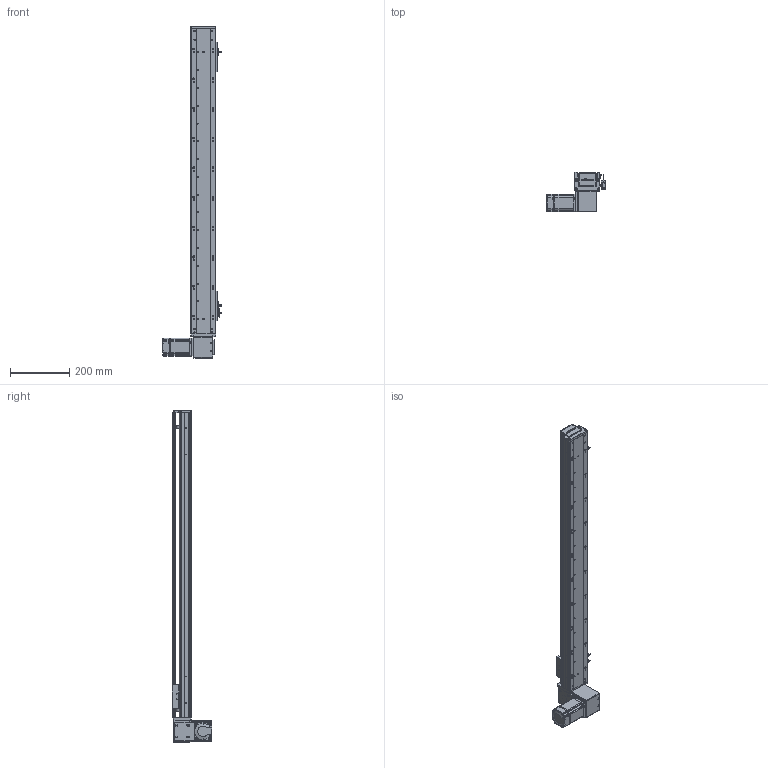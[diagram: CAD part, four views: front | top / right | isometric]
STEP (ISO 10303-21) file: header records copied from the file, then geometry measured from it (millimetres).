
FILE_DESCRIPTION (( 'STEP AP203' ), '1' );
FILE_NAME ('RY80-T-300-DL.SLDASM_850.step', '2021-03-01T01:38:20', ( '盈信电脑' ), ( '东莞市道滘镇水果街19号' ), 'SwSTEP 2.0', 'SolidWorks 2012', '' );
FILE_SCHEMA (( 'CONFIG_CONTROL_DESIGN' ));
Length unit declared in the file: millimetre
Products named in the file (19): RY100-T粣創揤踡裔; RY80-T-M4蹟翐3; RY80-T-300-DL.SLDASM_850; RY80-T-上下折同步轮盖板; 1; 滅袉蝶18-10; RY80-T肮祭謫狟殏俋欶; RY80-T肮祭湍揤輸2; RY80-T肮祭湍揤輸1; RY80-T翋肮祭謫裔啣; RY80-T萇儂假蚾啣; RY80-T-翋肮祭謫釱; 672嫖萇羲壽假蚾釱; RY80俋离覜茼え; 覜茼ん672; RY80-T肮祭謫臏賑輸; RY80-T-300-DL倰第菁釱_850; RY80-T-300-DL倰第奻裔啣_850; RY80-T綴裔啣
Assembly tree (24 placements, depth 2):
  RY80-T-300-DL.SLDASM_850
    RY80-T-300-DL倰第菁釱_850
    RY80-T肮祭謫臏賑輸
    RY80-T-300-DL倰第奻裔啣_850
    RY80-T綴裔啣
    672嫖萇羲壽假蚾釱  x2
    覜茼ん672  x3
    RY80俋离覜茼え
    RY80-T-翋肮祭謫釱
    RY80-T肮祭湍揤輸1
    RY80-T肮祭湍揤輸2
    RY80-T萇儂假蚾啣
    RY80-T翋肮祭謫裔啣  x2
    滅袉蝶18-10  x2
    1
    RY80-T肮祭謫狟殏俋欶
    RY80-T-M4蹟翐3  x2
    RY80-T-上下折同步轮盖板
    RY100-T粣創揤踡裔
Bounding box: 198.7 x 134.5 x 1120 mm (x, y, z)
Volume: 1987382.7 mm3; surface area: 837610.7 mm2
Topology: 24 solids, 24 shells, 2598 faces, 7190 edges, 4669 vertices
Faces by surface type: plane 1365, cylinder 1025, cone 152, bspline 56
Entity records: 82899 total; most frequent: CARTESIAN_POINT 20892, ORIENTED_EDGE 12824, DIRECTION 11912, EDGE_CURVE 6412, VERTEX_POINT 4210, AXIS2_PLACEMENT_3D 4030, VECTOR 3852, LINE 3852
